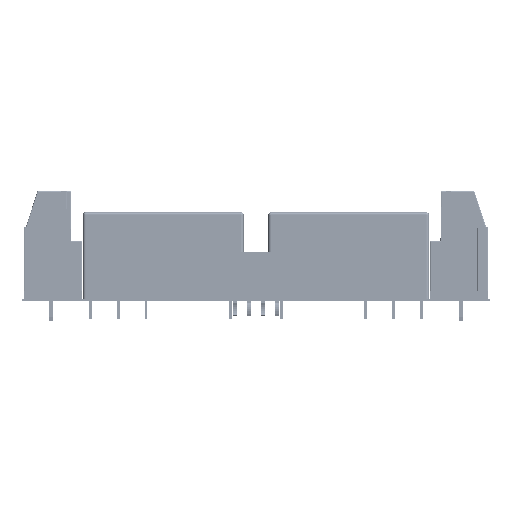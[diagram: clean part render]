
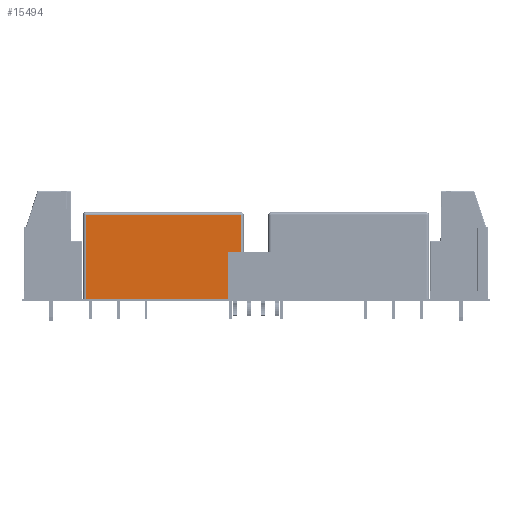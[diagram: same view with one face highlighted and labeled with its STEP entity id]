
A CAD part, front view. The second image highlights one B-rep face of the part: STEP entity #15494.
In plain terms, the highlighted planar face has unit normal (0, -1, 0).
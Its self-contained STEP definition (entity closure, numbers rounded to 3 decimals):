
#14949 = VERTEX_POINT('',#14950);
#14950 = CARTESIAN_POINT('',(14.,-6.35,0.));
#14957 = EDGE_CURVE('',#14958,#14949,#14960,.T.);
#14958 = VERTEX_POINT('',#14959);
#14959 = CARTESIAN_POINT('',(-14.,-6.35,0.));
#14960 = LINE('',#14961,#14962);
#14961 = CARTESIAN_POINT('',(-14.,-6.35,0.));
#14962 = VECTOR('',#14963,1.);
#14963 = DIRECTION('',(1.,0.,0.));
#15415 = VERTEX_POINT('',#15416);
#15416 = CARTESIAN_POINT('',(14.,-6.35,-15.2));
#15423 = EDGE_CURVE('',#15415,#15424,#15426,.T.);
#15424 = VERTEX_POINT('',#15425);
#15425 = CARTESIAN_POINT('',(-14.,-6.35,-15.2));
#15426 = LINE('',#15427,#15428);
#15427 = CARTESIAN_POINT('',(14.,-6.35,-15.2));
#15428 = VECTOR('',#15429,1.);
#15429 = DIRECTION('',(-1.,0.,0.));
#15464 = EDGE_CURVE('',#14958,#15424,#15465,.T.);
#15465 = LINE('',#15466,#15467);
#15466 = CARTESIAN_POINT('',(-14.,-6.35,0.));
#15467 = VECTOR('',#15468,1.);
#15468 = DIRECTION('',(0.,0.,-1.));
#15494 = ADVANCED_FACE('',(#15495),#15506,.T.);
#15495 = FACE_BOUND('',#15496,.F.);
#15496 = EDGE_LOOP('',(#15497,#15498,#15499,#15500));
#15497 = ORIENTED_EDGE('',*,*,#15423,.T.);
#15498 = ORIENTED_EDGE('',*,*,#15464,.F.);
#15499 = ORIENTED_EDGE('',*,*,#14957,.T.);
#15500 = ORIENTED_EDGE('',*,*,#15501,.T.);
#15501 = EDGE_CURVE('',#14949,#15415,#15502,.T.);
#15502 = LINE('',#15503,#15504);
#15503 = CARTESIAN_POINT('',(14.,-6.35,0.));
#15504 = VECTOR('',#15505,1.);
#15505 = DIRECTION('',(0.,0.,-1.));
#15506 = PLANE('',#15507);
#15507 = AXIS2_PLACEMENT_3D('',#15508,#15509,#15510);
#15508 = CARTESIAN_POINT('',(-14.,-6.35,0.));
#15509 = DIRECTION('',(0.,-1.,0.));
#15510 = DIRECTION('',(1.,0.,0.));
